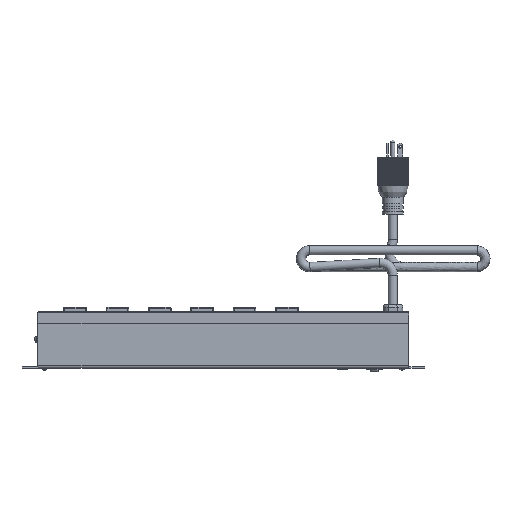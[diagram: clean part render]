
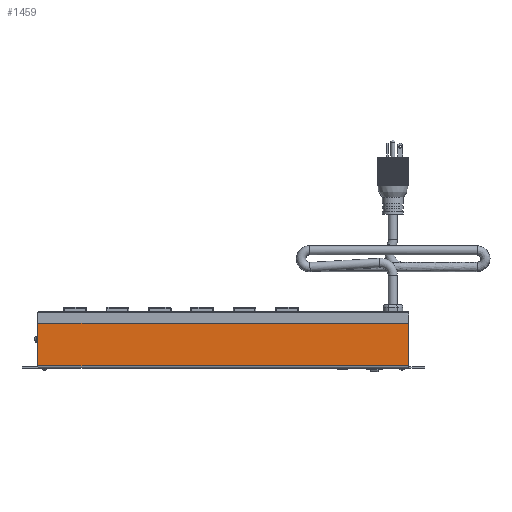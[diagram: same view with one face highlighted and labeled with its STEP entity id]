
A CAD part, front view. The second image highlights one B-rep face of the part: STEP entity #1459.
In plain terms, the highlighted planar face has unit normal (0, -1, 0).
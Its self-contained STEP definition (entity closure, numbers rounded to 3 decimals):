
#1250=CARTESIAN_POINT('',(-222.25,-21.819,2.588));
#1251=VERTEX_POINT('',#1250);
#1252=CARTESIAN_POINT('',(222.25,-21.819,2.588));
#1253=VERTEX_POINT('',#1252);
#1254=CARTESIAN_POINT('',(-222.25,-21.819,2.588));
#1255=DIRECTION('',(1.0,0.0,0.0));
#1256=VECTOR('',#1255,444.5);
#1257=LINE('',#1254,#1256);
#1258=EDGE_CURVE('',#1251,#1253,#1257,.T.);
#1308=CARTESIAN_POINT('',(222.25,-21.819,53.975));
#1309=VERTEX_POINT('',#1308);
#1316=CARTESIAN_POINT('',(222.25,-21.819,53.975));
#1317=DIRECTION('',(0.0,0.0,-1.0));
#1318=VECTOR('',#1317,51.387);
#1319=LINE('',#1316,#1318);
#1320=EDGE_CURVE('',#1309,#1253,#1319,.T.);
#1413=CARTESIAN_POINT('',(-222.25,-21.819,53.975));
#1414=VERTEX_POINT('',#1413);
#1415=CARTESIAN_POINT('',(-222.25,-21.819,2.588));
#1416=DIRECTION('',(0.0,0.0,1.0));
#1417=VECTOR('',#1416,51.388);
#1418=LINE('',#1415,#1417);
#1419=EDGE_CURVE('',#1251,#1414,#1418,.T.);
#1436=CARTESIAN_POINT('',(-222.25,-21.819,53.975));
#1437=DIRECTION('',(1.0,0.0,0.0));
#1438=VECTOR('',#1437,444.5);
#1439=LINE('',#1436,#1438);
#1440=EDGE_CURVE('',#1414,#1309,#1439,.T.);
#1448=CARTESIAN_POINT('',(0.,-21.819,26.947));
#1449=DIRECTION('',(0.0,1.0,0.0));
#1450=DIRECTION('',(1.0,0.0,0.0));
#1451=AXIS2_PLACEMENT_3D('',#1448,#1449,#1450);
#1452=PLANE('',#1451);
#1453=ORIENTED_EDGE('',*,*,#1258,.T.);
#1454=ORIENTED_EDGE('',*,*,#1320,.F.);
#1455=ORIENTED_EDGE('',*,*,#1440,.F.);
#1456=ORIENTED_EDGE('',*,*,#1419,.F.);
#1457=EDGE_LOOP('',(#1453,#1454,#1455,#1456));
#1458=FACE_OUTER_BOUND('',#1457,.T.);
#1459=ADVANCED_FACE('',(#1458),#1452,.F.);
